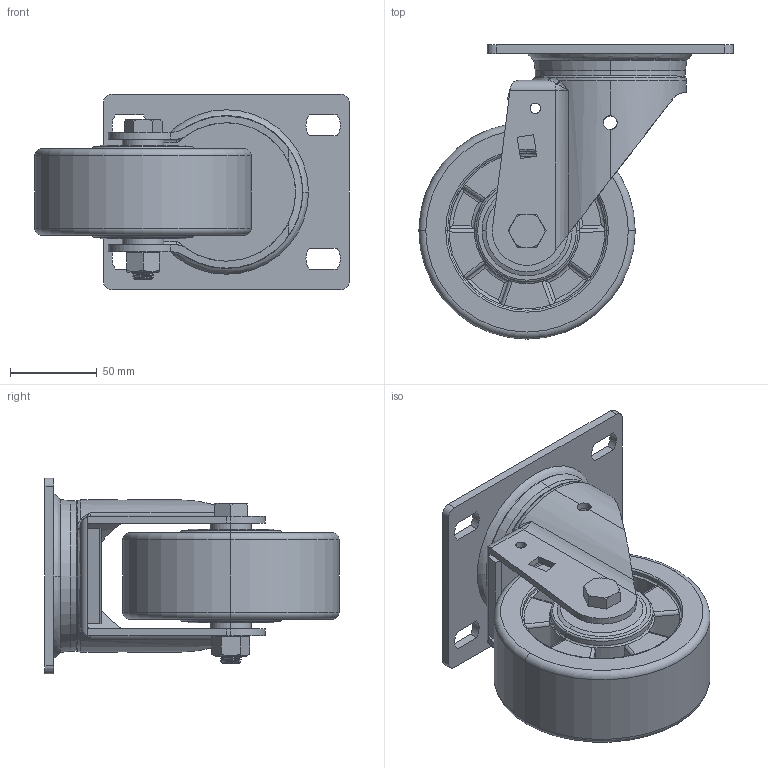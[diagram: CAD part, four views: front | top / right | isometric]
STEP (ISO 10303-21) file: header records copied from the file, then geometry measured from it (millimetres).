
FILE_DESCRIPTION (( 'STEP AP214' ), '1' );
FILE_NAME ('77115-785-86A す階勀砃.STEP', '2019-12-24T23:54:40', ( 'Owner' ), ( 'Organization' ), 'SwSTEP 2.0', 'SolidWorks 2014', '' );
FILE_SCHEMA (( 'AUTOMOTIVE_DESIGN' ));
Length unit declared in the file: millimetre
Products named in the file (6): 77115-785-86A す階勀砃; 680-01a 侐源; 750-34a; 685-11a; 785-86AB; 750-33a
Assembly tree (5 placements, depth 2):
  77115-785-86A す階勀砃
    680-01a 侐源
    685-11a
    750-34a
    750-33a
    785-86AB
Bounding box: 181.6 x 169.87 x 113 mm (x, y, z)
Volume: 711538.2 mm3; surface area: 168718.5 mm2
Topology: 5 solids, 5 shells, 426 faces, 1154 edges, 748 vertices
Faces by surface type: cylinder 201, plane 112, torus 48, bspline 41, cone 24
Entity records: 139235 total; most frequent: CARTESIAN_POINT 128925, ORIENTED_EDGE 2308, DIRECTION 1847, EDGE_CURVE 1154, VERTEX_POINT 748, AXIS2_PLACEMENT_3D 709, EDGE_LOOP 462, VECTOR 429
